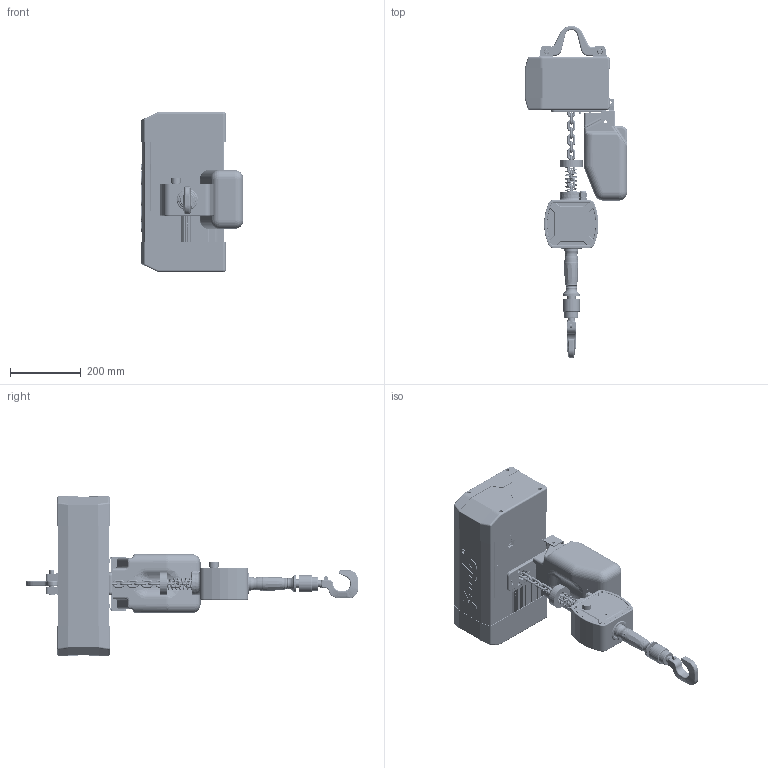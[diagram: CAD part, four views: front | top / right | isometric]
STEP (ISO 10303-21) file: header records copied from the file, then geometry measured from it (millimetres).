
FILE_DESCRIPTION(/* description */ (''),/* implementation_level */ '2;1');
FILE_NAME(/* name */ 'YJ 01-01 固定式同轴.stp',/* time_stamp */ '2026-08-25T08:49:48+08:00',/* author */ (''),/* organization */ (''),/* preprocessor_version */ 'ST-DEVELOPER v16.7',/* originating_system */ 'SIEMENS PLM Software NX 12.0',/* authorisation */ '');
FILE_SCHEMA (('AUTOMOTIVE_DESIGN { 1 0 10303 214 3 1 1 1 }'));
Products named in the file (1): A0DA821529oce
Bounding box: 289.59 x 937.4 x 451.2 mm (x, y, z)
Volume: 12988325.3 mm3; surface area: 1928999.7 mm2
Topology: 60 solids, 67 shells, 4480 faces, 10936 edges, 6635 vertices
Faces by surface type: cylinder 1583, plane 1484, torus 574, bspline 435, extrusion 174, cone 125, sphere 105
Full cylindrical faces by diameter (mm): 1.467 x1, 1.707 x1, 2.5 x5, 3 x6, 3.4 x26, 3.5 x4, 4 x9, 4.05 x2, 4.2 x4, 4.3 x5, 4.5 x7, 5 x5, 5.5 x8, 5.8 x2, 6.2 x3, 6.6 x8, 6.8 x4, 7 x80, 7.46 x1, 8 x5, 8.5 x8, 8.6 x2, 8.65 x1, 9 x4, 10.2 x8, 11.1 x1, 12 x1, 12.224 x1, 12.5 x1, 12.6 x2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
Entity records: 183459 total; most frequent: CARTESIAN_POINT 83524, DIRECTION 20441, ORIENTED_EDGE 20196, EDGE_CURVE 10098, AXIS2_PLACEMENT_3D 7723, VERTEX_POINT 6339, EDGE_LOOP 5109, VECTOR 4995
